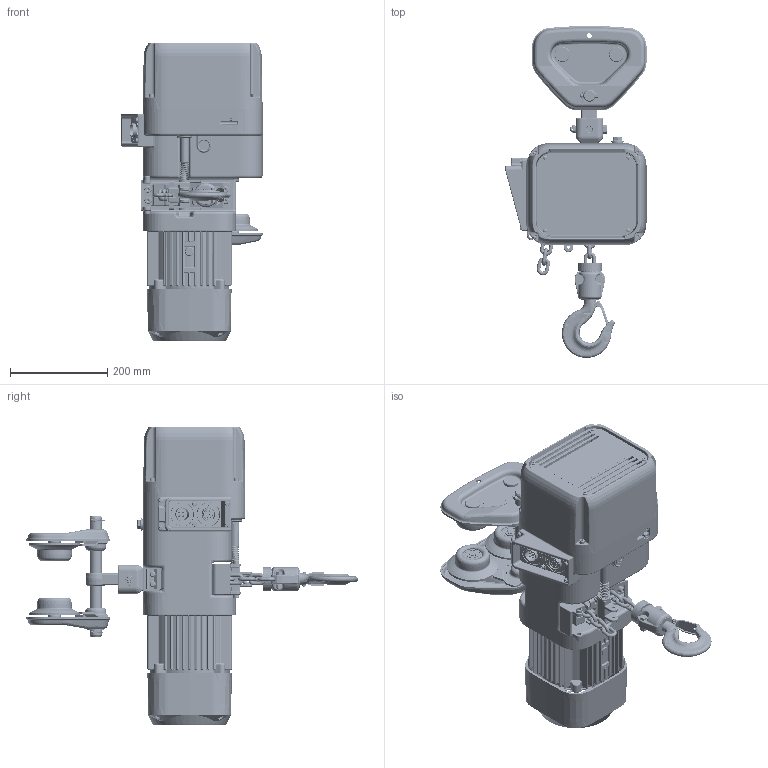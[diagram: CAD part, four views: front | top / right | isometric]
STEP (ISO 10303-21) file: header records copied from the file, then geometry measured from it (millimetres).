
FILE_DESCRIPTION (( 'STEP AP214' ), '1' );
FILE_NAME ('NER2P010LD.STEP', '2026-08-11T14:17:38', ( '' ), ( '' ), 'SwSTEP 2.0', 'SolidWorks 2026', '' );
FILE_SCHEMA (( 'AUTOMOTIVE_DESIGN' ));
Length unit declared in the file: inch
Products named in the file (64): ES127005S; 9012711_9012711; 9047115_9047115; T7G115010; ER2DI9104_ER2DI9104; 9091274_9091274; T6GA0109113; T6G5112010; PTF2010_4.66" Flange; ER2DI4511; L3183008_CASTLENUT_J1NL001-10100; T6G5102010; MS561010; LCER2010NP_8; ER2DS1002; 9009414-5_9009414-5; NER2P010LD; ER2DJ2104; NER2010LD_Suspender E; ER2DS9103; ER2DS9011; ER2BHM10I9A5; ER1BS9135; J1NA001-20080_B18.2.4.1M - Hex nut, Style 1,  M8 x 1.25 --D-C; LCER2010NP; ER2CS2523; T6G800010P; ER2CS9107_ER2CS9107; ER2CS9123; J1AP2-4001212.SLDASM; ER2DS9015; ER2CI2564; T6GA0109103; T7G117010; ER2CS9027; ER2DS1011; E3S111003; ER2CS9186; E3S112003; ER2DI9185_ER2DI9185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
Assembly tree (126 placements, depth 5):
  NER2P010LD
    NER2010LD_Suspender E
      ER2DS9101
      ER2DS9103
      ER2DS1011
        ER2DS2015
          ER2DS9015  x2
          J1BY9-0803022_B18.2.3.1M - Hex cap screw, M8 x 1.25 x 30 --30C  x2
          J1WS011-20080_Rectangular section spring washer BS 4464 - 16 (Type B)  x2
          J1NA001-20080_B18.2.4.1M - Hex nut, Style 1,  M8 x 1.25 --D-C  x2
        ER2DS9011
        ER2DS1002
      ER2DS9331
      ER2DS9337
      ER2DS9338
      ER2CS9357
      ER2CS9121  x2
      ER2CS9123
      9091274_9091274  x5
      ER2CS9186
      LCER2010NP_8
        LCER2010NP  x8
      ER1DS9053
      9012711_9012711  x4
      ES127005S
      ER1BS9135
      E3S112003  x2
      E3S111003  x2
      ER2DI4511
        ER2CS9511
        MS561010  x6
        ER2CS2523
        ER2CI2564
        ES558003  x8
      ER2BHM10I9A5
      ER2CS9027
      T7GB004010
      ER1CS9032
      L3183008_CASTLENUT_J1NL001-10100
      ER2DJ2104
        ER2DI9104_ER2DI9104
        ER2DI9185_ER2DI9185
        J1AP2-4001212.SLDASM  x4
      9679709_B18.21.2M-External Tooth Lock Washers_AM6  x4
      9091254_9091254  x4
      ER2DL9105
      ER2CS9107_ER2CS9107
      9091234_B18.3.1M - 5 x 0.8 x 45 Hex SHCS -- 22CHX  x4
      9009414-5_9009414-5
      LCER2010NP  x5
    PTF2010_4.66" Flange
      T6G5112010  x2
        T6GA0109112
        T6GA0109113
        T6GA0109103
      T6G5102010  x4
        T6GA0109101
        6302Z BEARING
      MS104010  x4
      9047115_9047115  x4
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Bounding box: 291 x 683.81 x 614 mm (x, y, z)
Volume: 18998787.9 mm3; surface area: 1910440.1 mm2
Topology: 127 solids, 148 shells, 8493 faces, 22289 edges, 14237 vertices
Faces by surface type: plane 3283, cylinder 2838, torus 1005, bspline 653, cone 540, sphere 174
Entity records: 213396 total; most frequent: CARTESIAN_POINT 71357, ORIENTED_EDGE 29246, DIRECTION 28681, EDGE_CURVE 14625, AXIS2_PLACEMENT_3D 10985, VERTEX_POINT 9451, LINE 6711, VECTOR 6711
